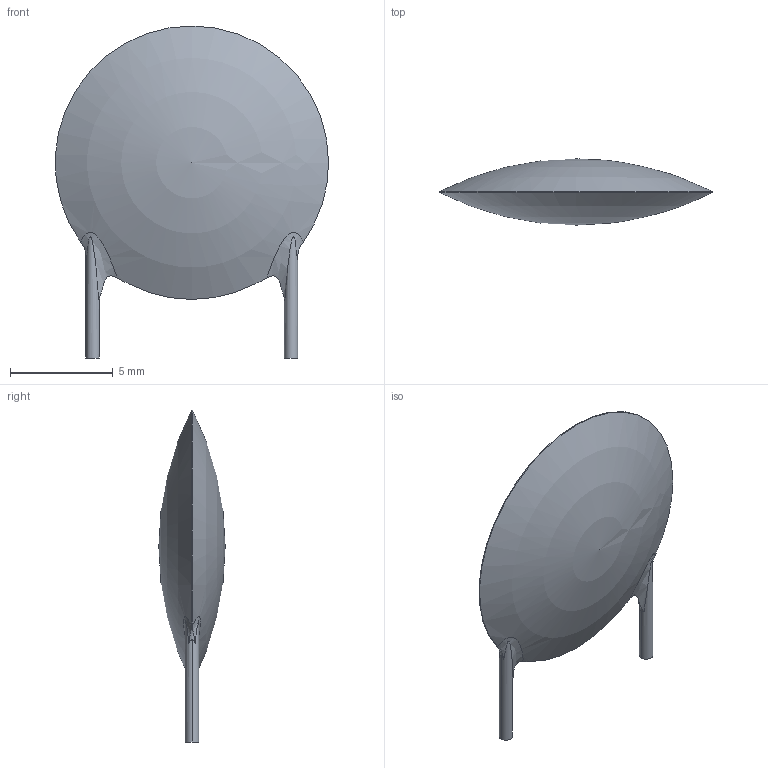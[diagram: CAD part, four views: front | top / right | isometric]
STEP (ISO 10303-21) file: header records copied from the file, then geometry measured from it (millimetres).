
FILE_DESCRIPTION(('FreeCAD Model'),'2;1');
FILE_NAME('Open CASCADE Shape Model','2022-03-17T10:35:09',('Author'),( ''),'Open CASCADE STEP processor 7.5','FreeCAD','Unknown');
FILE_SCHEMA(('AUTOMOTIVE_DESIGN { 1 0 10303 214 1 1 1 1 }'));
Length unit declared in the file: millimetre
Products named in the file (1): User Library-Ceramic Disc Capacitor 0.2in pitch001
Bounding box: 13.29 x 3.22 x 16.15 mm (x, y, z)
Volume: 234.6 mm3; surface area: 317.1 mm2
Topology: 1 solids, 1 shells, 21 faces, 61 edges, 40 vertices
Faces by surface type: bspline 10, cylinder 7, sphere 2, plane 2
Entity records: 1406 total; most frequent: CARTESIAN_POINT 793, ORIENTED_EDGE 118, EDGE_CURVE 59, DIRECTION 57, VERTEX_POINT 40, B_SPLINE_CURVE_WITH_KNOTS 40, AXIS2_PLACEMENT_3D 26, PRESENTATION_STYLE_ASSIGNMENT 22
